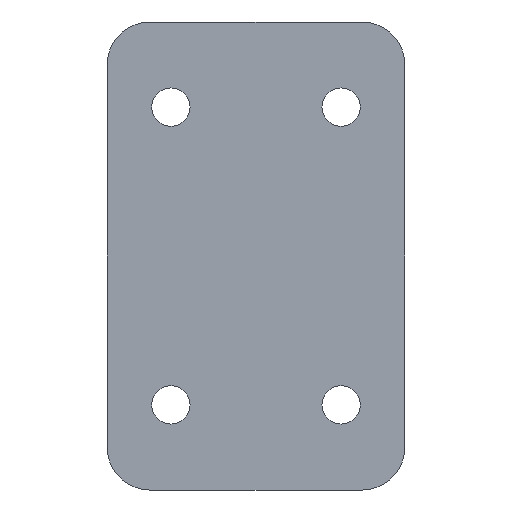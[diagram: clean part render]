
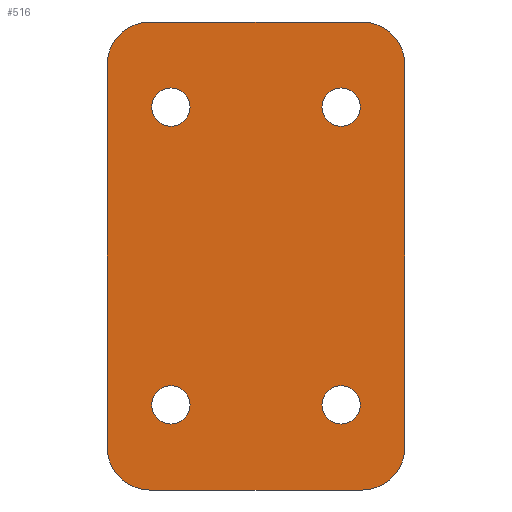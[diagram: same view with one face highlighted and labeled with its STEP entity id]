
A CAD part, front view. The second image highlights one B-rep face of the part: STEP entity #516.
In plain terms, the highlighted planar face has unit normal (0, -1, 0).
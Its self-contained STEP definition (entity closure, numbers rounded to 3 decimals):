
#6 = ORIENTED_EDGE ( 'NONE', *, *, #288, .F. ) ;
#16 = FACE_OUTER_BOUND ( 'NONE', #1206, .T. ) ;
#35 = AXIS2_PLACEMENT_3D ( 'NONE', #420, #1233, #99 ) ;
#40 = PLANE ( 'NONE',  #1044 ) ;
#45 = CARTESIAN_POINT ( 'NONE',  ( -20., 0., 30.5 ) ) ;
#48 = ORIENTED_EDGE ( 'NONE', *, *, #617, .F. ) ;
#54 = CARTESIAN_POINT ( 'NONE',  ( 20., 0., 35. ) ) ;
#56 = DIRECTION ( 'NONE',  ( 0., 0., 1. ) ) ;
#65 = CARTESIAN_POINT ( 'NONE',  ( -20., 0., 35. ) ) ;
#86 = DIRECTION ( 'NONE',  ( 0., 0., -1. ) ) ;
#92 = CARTESIAN_POINT ( 'NONE',  ( 20., 0., -39.5 ) ) ;
#96 = VERTEX_POINT ( 'NONE', #952 ) ;
#99 = DIRECTION ( 'NONE',  ( 0., 0., 1. ) ) ;
#108 = VERTEX_POINT ( 'NONE', #658 ) ;
#109 = EDGE_CURVE ( 'NONE', #1012, #480, #284, .T. ) ;
#120 = EDGE_CURVE ( 'NONE', #1123, #340, #1281, .T. ) ;
#122 = LINE ( 'NONE', #1263, #209 ) ;
#124 = CARTESIAN_POINT ( 'NONE',  ( -25., 0., -55. ) ) ;
#130 = DIRECTION ( 'NONE',  ( 0., -1., 0. ) ) ;
#160 = DIRECTION ( 'NONE',  ( 0., 1., 0. ) ) ;
#196 = AXIS2_PLACEMENT_3D ( 'NONE', #374, #669, #787 ) ;
#209 = VECTOR ( 'NONE', #86, 1000. ) ;
#211 = AXIS2_PLACEMENT_3D ( 'NONE', #334, #130, #352 ) ;
#218 = DIRECTION ( 'NONE',  ( 0., 0., 1. ) ) ;
#233 = FACE_BOUND ( 'NONE', #813, .T. ) ;
#246 = DIRECTION ( 'NONE',  ( 0., 0., -1. ) ) ;
#256 = VERTEX_POINT ( 'NONE', #367 ) ;
#261 = CARTESIAN_POINT ( 'NONE',  ( -35., 0., 55. ) ) ;
#273 = EDGE_CURVE ( 'NONE', #716, #532, #861, .T. ) ;
#280 = CIRCLE ( 'NONE', #891, 4.5 ) ;
#284 = CIRCLE ( 'NONE', #211, 10. ) ;
#288 = EDGE_CURVE ( 'NONE', #1123, #532, #1224, .T. ) ;
#309 = CARTESIAN_POINT ( 'NONE',  ( 25., 0., -45. ) ) ;
#313 = ORIENTED_EDGE ( 'NONE', *, *, #772, .T. ) ;
#321 = EDGE_CURVE ( 'NONE', #1297, #939, #623, .T. ) ;
#333 = DIRECTION ( 'NONE',  ( 0., 0., -1. ) ) ;
#334 = CARTESIAN_POINT ( 'NONE',  ( -25., 0., -45. ) ) ;
#340 = VERTEX_POINT ( 'NONE', #487 ) ;
#352 = DIRECTION ( 'NONE',  ( 0., 0., -1. ) ) ;
#353 = FACE_BOUND ( 'NONE', #1071, .T. ) ;
#367 = CARTESIAN_POINT ( 'NONE',  ( 20., 0., -30.5 ) ) ;
#368 = EDGE_CURVE ( 'NONE', #1211, #96, #1345, .T. ) ;
#374 = CARTESIAN_POINT ( 'NONE',  ( -20., 0., 35. ) ) ;
#377 = VERTEX_POINT ( 'NONE', #916 ) ;
#381 = EDGE_CURVE ( 'NONE', #96, #1211, #749, .T. ) ;
#382 = DIRECTION ( 'NONE',  ( 1., 0., 0. ) ) ;
#420 = CARTESIAN_POINT ( 'NONE',  ( -20., 0., -35. ) ) ;
#429 = EDGE_CURVE ( 'NONE', #377, #480, #826, .T. ) ;
#431 = CARTESIAN_POINT ( 'NONE',  ( 0., 0., 0. ) ) ;
#434 = DIRECTION ( 'NONE',  ( 0., -1., 0. ) ) ;
#444 = AXIS2_PLACEMENT_3D ( 'NONE', #309, #434, #333 ) ;
#470 = CARTESIAN_POINT ( 'NONE',  ( 20., 0., 30.5 ) ) ;
#480 = VERTEX_POINT ( 'NONE', #124 ) ;
#482 = EDGE_LOOP ( 'NONE', ( #985, #963 ) ) ;
#485 = ORIENTED_EDGE ( 'NONE', *, *, #109, .T. ) ;
#487 = CARTESIAN_POINT ( 'NONE',  ( -35., 0., 45. ) ) ;
#490 = CARTESIAN_POINT ( 'NONE',  ( -20., 0., 39.5 ) ) ;
#516 = ADVANCED_FACE ( 'NONE', ( #853, #1075, #353, #233, #16 ), #40, .T. ) ;
#530 = VECTOR ( 'NONE', #936, 1000. ) ;
#532 = VERTEX_POINT ( 'NONE', #767 ) ;
#534 = DIRECTION ( 'NONE',  ( 0., 1., 0. ) ) ;
#538 = ORIENTED_EDGE ( 'NONE', *, *, #429, .F. ) ;
#552 = CIRCLE ( 'NONE', #1079, 4.5 ) ;
#557 = CARTESIAN_POINT ( 'NONE',  ( 20., 0., 35. ) ) ;
#561 = CARTESIAN_POINT ( 'NONE',  ( -25., 0., 45. ) ) ;
#575 = CARTESIAN_POINT ( 'NONE',  ( 20., 0., 39.5 ) ) ;
#580 = CIRCLE ( 'NONE', #1342, 4.5 ) ;
#586 = DIRECTION ( 'NONE',  ( 0., 0., 1. ) ) ;
#596 = CARTESIAN_POINT ( 'NONE',  ( 25., 0., 45. ) ) ;
#615 = EDGE_CURVE ( 'NONE', #648, #920, #1150, .T. ) ;
#617 = EDGE_CURVE ( 'NONE', #1012, #340, #1216, .T. ) ;
#623 = CIRCLE ( 'NONE', #196, 4.5 ) ;
#631 = DIRECTION ( 'NONE',  ( 0., 0., -1. ) ) ;
#633 = DIRECTION ( 'NONE',  ( 0., 1., 0. ) ) ;
#648 = VERTEX_POINT ( 'NONE', #575 ) ;
#658 = CARTESIAN_POINT ( 'NONE',  ( 35., 0., -45. ) ) ;
#669 = DIRECTION ( 'NONE',  ( 0., 1., 0. ) ) ;
#687 = CIRCLE ( 'NONE', #444, 10. ) ;
#690 = AXIS2_PLACEMENT_3D ( 'NONE', #596, #782, #900 ) ;
#693 = AXIS2_PLACEMENT_3D ( 'NONE', #561, #1061, #631 ) ;
#716 = VERTEX_POINT ( 'NONE', #1090 ) ;
#721 = CARTESIAN_POINT ( 'NONE',  ( -35., 0., -55. ) ) ;
#723 = DIRECTION ( 'NONE',  ( 0., 1., 0. ) ) ;
#737 = ORIENTED_EDGE ( 'NONE', *, *, #1101, .T. ) ;
#749 = CIRCLE ( 'NONE', #35, 4.5 ) ;
#764 = ORIENTED_EDGE ( 'NONE', *, *, #845, .T. ) ;
#767 = CARTESIAN_POINT ( 'NONE',  ( 25., 0., 55. ) ) ;
#772 = EDGE_CURVE ( 'NONE', #920, #648, #280, .T. ) ;
#779 = CARTESIAN_POINT ( 'NONE',  ( -35., 0., -45. ) ) ;
#782 = DIRECTION ( 'NONE',  ( 0., -1., 0. ) ) ;
#787 = DIRECTION ( 'NONE',  ( 0., 0., 1. ) ) ;
#798 = ORIENTED_EDGE ( 'NONE', *, *, #615, .T. ) ;
#805 = AXIS2_PLACEMENT_3D ( 'NONE', #54, #160, #586 ) ;
#813 = EDGE_LOOP ( 'NONE', ( #896, #849 ) ) ;
#816 = ORIENTED_EDGE ( 'NONE', *, *, #1156, .F. ) ;
#818 = DIRECTION ( 'NONE',  ( 0., 0., 1. ) ) ;
#823 = AXIS2_PLACEMENT_3D ( 'NONE', #65, #993, #56 ) ;
#825 = VECTOR ( 'NONE', #382, 1000. ) ;
#826 = LINE ( 'NONE', #721, #530 ) ;
#834 = DIRECTION ( 'NONE',  ( 0., 1., 0. ) ) ;
#845 = EDGE_CURVE ( 'NONE', #256, #1085, #552, .T. ) ;
#849 = ORIENTED_EDGE ( 'NONE', *, *, #321, .T. ) ;
#853 = FACE_BOUND ( 'NONE', #482, .T. ) ;
#861 = CIRCLE ( 'NONE', #690, 10. ) ;
#891 = AXIS2_PLACEMENT_3D ( 'NONE', #557, #534, #218 ) ;
#896 = ORIENTED_EDGE ( 'NONE', *, *, #1026, .T. ) ;
#900 = DIRECTION ( 'NONE',  ( 0., 0., -1. ) ) ;
#916 = CARTESIAN_POINT ( 'NONE',  ( 25., 0., -55. ) ) ;
#920 = VERTEX_POINT ( 'NONE', #470 ) ;
#936 = DIRECTION ( 'NONE',  ( -1., 0., 0. ) ) ;
#939 = VERTEX_POINT ( 'NONE', #490 ) ;
#952 = CARTESIAN_POINT ( 'NONE',  ( -20., 0., -39.5 ) ) ;
#963 = ORIENTED_EDGE ( 'NONE', *, *, #381, .T. ) ;
#974 = AXIS2_PLACEMENT_3D ( 'NONE', #1089, #834, #818 ) ;
#985 = ORIENTED_EDGE ( 'NONE', *, *, #368, .T. ) ;
#993 = DIRECTION ( 'NONE',  ( 0., 1., 0. ) ) ;
#1012 = VERTEX_POINT ( 'NONE', #779 ) ;
#1026 = EDGE_CURVE ( 'NONE', #939, #1297, #1130, .T. ) ;
#1042 = DIRECTION ( 'NONE',  ( 0., 0., 1. ) ) ;
#1044 = AXIS2_PLACEMENT_3D ( 'NONE', #431, #1054, #246 ) ;
#1054 = DIRECTION ( 'NONE',  ( 0., -1., 0. ) ) ;
#1056 = CARTESIAN_POINT ( 'NONE',  ( 20., 0., -35. ) ) ;
#1061 = DIRECTION ( 'NONE',  ( 0., -1., 0. ) ) ;
#1071 = EDGE_LOOP ( 'NONE', ( #798, #313 ) ) ;
#1073 = EDGE_CURVE ( 'NONE', #1085, #256, #580, .T. ) ;
#1075 = FACE_BOUND ( 'NONE', #1268, .T. ) ;
#1079 = AXIS2_PLACEMENT_3D ( 'NONE', #1056, #633, #1164 ) ;
#1085 = VERTEX_POINT ( 'NONE', #92 ) ;
#1089 = CARTESIAN_POINT ( 'NONE',  ( -20., 0., -35. ) ) ;
#1090 = CARTESIAN_POINT ( 'NONE',  ( 35., 0., 45. ) ) ;
#1101 = EDGE_CURVE ( 'NONE', #377, #108, #687, .T. ) ;
#1115 = CARTESIAN_POINT ( 'NONE',  ( -35., 0., 55. ) ) ;
#1123 = VERTEX_POINT ( 'NONE', #1336 ) ;
#1130 = CIRCLE ( 'NONE', #823, 4.5 ) ;
#1139 = CARTESIAN_POINT ( 'NONE',  ( 20., 0., -35. ) ) ;
#1150 = CIRCLE ( 'NONE', #805, 4.5 ) ;
#1156 = EDGE_CURVE ( 'NONE', #716, #108, #122, .T. ) ;
#1164 = DIRECTION ( 'NONE',  ( 0., 0., 1. ) ) ;
#1171 = VECTOR ( 'NONE', #1310, 1000. ) ;
#1174 = ORIENTED_EDGE ( 'NONE', *, *, #273, .T. ) ;
#1185 = CARTESIAN_POINT ( 'NONE',  ( -20., 0., -30.5 ) ) ;
#1206 = EDGE_LOOP ( 'NONE', ( #538, #737, #816, #1174, #6, #1221, #48, #485 ) ) ;
#1211 = VERTEX_POINT ( 'NONE', #1185 ) ;
#1216 = LINE ( 'NONE', #1115, #1171 ) ;
#1221 = ORIENTED_EDGE ( 'NONE', *, *, #120, .T. ) ;
#1224 = LINE ( 'NONE', #261, #825 ) ;
#1233 = DIRECTION ( 'NONE',  ( 0., 1., 0. ) ) ;
#1263 = CARTESIAN_POINT ( 'NONE',  ( 35., 0., 55. ) ) ;
#1268 = EDGE_LOOP ( 'NONE', ( #764, #1311 ) ) ;
#1281 = CIRCLE ( 'NONE', #693, 10. ) ;
#1297 = VERTEX_POINT ( 'NONE', #45 ) ;
#1310 = DIRECTION ( 'NONE',  ( 0., 0., 1. ) ) ;
#1311 = ORIENTED_EDGE ( 'NONE', *, *, #1073, .T. ) ;
#1336 = CARTESIAN_POINT ( 'NONE',  ( -25., 0., 55. ) ) ;
#1342 = AXIS2_PLACEMENT_3D ( 'NONE', #1139, #723, #1042 ) ;
#1345 = CIRCLE ( 'NONE', #974, 4.5 ) ;
